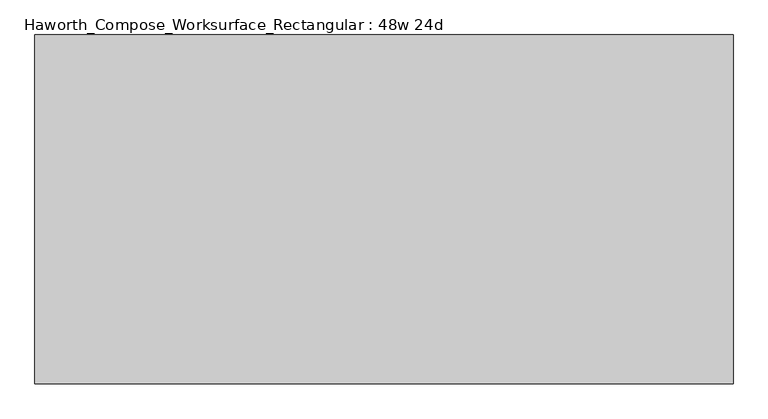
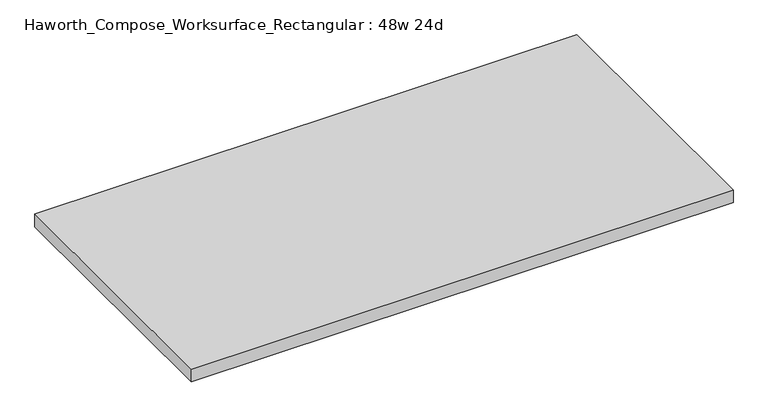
"""IFC4 building model written with IfcOpenShell, lengths in millimetres: furniture geometry, Haworth_Compose_Worksurface_Rectangular : 48w 24d."""

from ifc_helpers import new_model, si_unit, frame, origin, place, context, project, spatial, polyline, outline, extrude, source, transform, mapped, element, save


def haworth_compose_worksurface_rectangular_48w_24d_891c8413(model_context):
    return source(origin(), model_context, "Body", "SweptSolid", [
        extrude(outline(polyline([(609.6, -304.8), (-609.6, -304.8), (-609.6, 304.8), (609.6, 304.8), (609.6, -304.8)])), frame((0.0, 0.0, 706.4375), z_axis=(0.0, 0.0, 1.0), x_axis=(1.0, 0.0, 0.0)), (0.0, 0.0, 1.0), 30.1625),
    ])


if __name__ == "__main__":
    model = new_model("IFC4")
    model_context = context("Model", 3, world=origin())
    ifc_project = project(units=[si_unit("LENGTHUNIT", "METRE", prefix="MILLI")], contexts=[model_context])
    site = spatial("IfcSite", under=ifc_project)
    building = spatial("IfcBuilding", under=site)
    placement = place(None, origin())
    haworth_compose_worksurface_rectangular_48w_24d_shape = haworth_compose_worksurface_rectangular_48w_24d_891c8413(model_context)
    element("IfcFurniture", 1, ObjectType="Haworth_Compose_Worksurface_Rectangular : 48w 24d", at=placement, inside=building, context=model_context, shape_type="MappedRepresentation", body=[
        mapped(haworth_compose_worksurface_rectangular_48w_24d_shape, transform((0.0, 0.0, 0.0), x_axis=(1.0, 0.0, 0.0), y_axis=(0.0, 1.0, 0.0), z_axis=(0.0, 0.0, 1.0))),
    ])
    save(model, "model.ifc")
